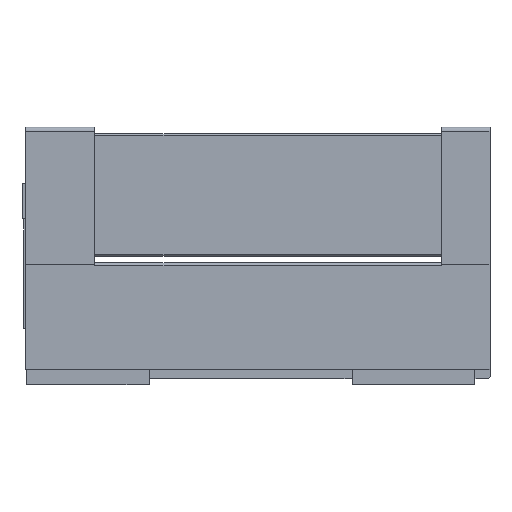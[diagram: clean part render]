
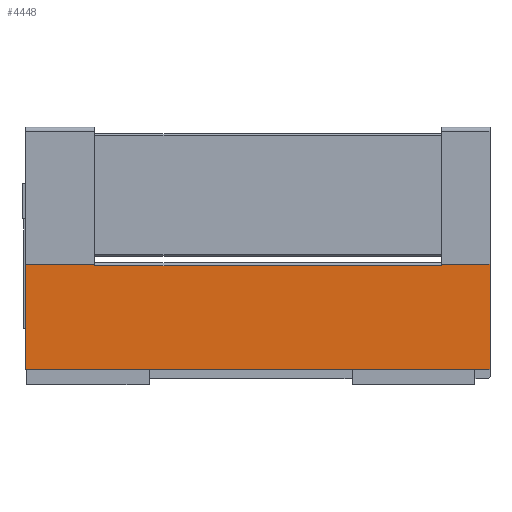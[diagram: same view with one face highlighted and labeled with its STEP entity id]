
A CAD part, left-side view. The second image highlights one B-rep face of the part: STEP entity #4448.
In plain terms, the highlighted planar face has unit normal (-1, 0, 0).
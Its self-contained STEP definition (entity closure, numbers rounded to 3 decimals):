
#35 = FACE_OUTER_BOUND ( 'NONE', #731, .T. ) ;
#147 = VECTOR ( 'NONE', #3398, 1000. ) ;
#148 = LINE ( 'NONE', #3399, #147 ) ;
#241 = VECTOR ( 'NONE', #3293, 1000. ) ;
#242 = LINE ( 'NONE', #3294, #241 ) ;
#471 = VECTOR ( 'NONE', #3589, 1000. ) ;
#476 = LINE ( 'NONE', #3593, #471 ) ;
#617 = ORIENTED_EDGE ( 'NONE', *, *, #4142, .F. ) ;
#618 = ORIENTED_EDGE ( 'NONE', *, *, #4313, .F. ) ;
#619 = ORIENTED_EDGE ( 'NONE', *, *, #3952, .F. ) ;
#620 = ORIENTED_EDGE ( 'NONE', *, *, #3758, .T. ) ;
#621 = ORIENTED_EDGE ( 'NONE', *, *, #4013, .T. ) ;
#622 = ORIENTED_EDGE ( 'NONE', *, *, #4215, .F. ) ;
#623 = ORIENTED_EDGE ( 'NONE', *, *, #4244, .F. ) ;
#624 = ORIENTED_EDGE ( 'NONE', *, *, #4151, .F. ) ;
#731 = EDGE_LOOP ( 'NONE', ( #617, #618, #619, #620, #621, #622, #623, #624 ) ) ;
#1252 = VECTOR ( 'NONE', #1889, 1000. ) ;
#1254 = LINE ( 'NONE', #1888, #1252 ) ;
#1358 = VECTOR ( 'NONE', #2748, 1000. ) ;
#1359 = LINE ( 'NONE', #2749, #1358 ) ;
#1403 = VECTOR ( 'NONE', #2821, 1000. ) ;
#1404 = LINE ( 'NONE', #2823, #1403 ) ;
#1509 = VECTOR ( 'NONE', #2980, 1000. ) ;
#1510 = LINE ( 'NONE', #2981, #1509 ) ;
#1524 = VECTOR ( 'NONE', #3671, 1000. ) ;
#1525 = LINE ( 'NONE', #3672, #1524 ) ;
#1888 = CARTESIAN_POINT ( 'NONE',  ( -4.1, 289.3, -28.503 ) ) ;
#1889 = DIRECTION ( 'NONE',  ( 0., 0., -1. ) ) ;
#2341 = PLANE ( 'NONE',  #4002 ) ;
#2345 = CARTESIAN_POINT ( 'NONE',  ( -4.1, 340., -28.503 ) ) ;
#2351 = DIRECTION ( 'NONE',  ( 1., 0., 0. ) ) ;
#2352 = DIRECTION ( 'NONE',  ( 0., 0., -1. ) ) ;
#2445 = VERTEX_POINT ( 'NONE', #3139 ) ;
#2457 = VERTEX_POINT ( 'NONE', #3221 ) ;
#2459 = VERTEX_POINT ( 'NONE', #3219 ) ;
#2460 = VERTEX_POINT ( 'NONE', #3218 ) ;
#2464 = VERTEX_POINT ( 'NONE', #3214 ) ;
#2468 = VERTEX_POINT ( 'NONE', #3210 ) ;
#2470 = VERTEX_POINT ( 'NONE', #3208 ) ;
#2748 = DIRECTION ( 'NONE',  ( 0., -1., 0. ) ) ;
#2749 = CARTESIAN_POINT ( 'NONE',  ( -4.1, 340., 48.248 ) ) ;
#2821 = DIRECTION ( 'NONE',  ( 0., 0., -1. ) ) ;
#2823 = CARTESIAN_POINT ( 'NONE',  ( -4.1, 0., -28.503 ) ) ;
#2980 = DIRECTION ( 'NONE',  ( 0., 0., 1. ) ) ;
#2981 = CARTESIAN_POINT ( 'NONE',  ( -4.1, 35.3, -28.503 ) ) ;
#3009 = VERTEX_POINT ( 'NONE', #3695 ) ;
#3139 = CARTESIAN_POINT ( 'NONE',  ( -4.1, 0., 48.248 ) ) ;
#3208 = CARTESIAN_POINT ( 'NONE',  ( -4.1, 0., -28.503 ) ) ;
#3210 = CARTESIAN_POINT ( 'NONE',  ( -4.1, 35.3, 47.266 ) ) ;
#3214 = CARTESIAN_POINT ( 'NONE',  ( -4.1, 289.3, 47.266 ) ) ;
#3218 = CARTESIAN_POINT ( 'NONE',  ( -4.1, 35.3, 48.248 ) ) ;
#3219 = CARTESIAN_POINT ( 'NONE',  ( -4.1, 289.3, 48.248 ) ) ;
#3221 = CARTESIAN_POINT ( 'NONE',  ( -4.1, 340., -28.503 ) ) ;
#3293 = DIRECTION ( 'NONE',  ( 0., -1., 0. ) ) ;
#3294 = CARTESIAN_POINT ( 'NONE',  ( -4.1, 340., 48.248 ) ) ;
#3398 = DIRECTION ( 'NONE',  ( 0., -1., 0. ) ) ;
#3399 = CARTESIAN_POINT ( 'NONE',  ( -4.1, 340., -28.503 ) ) ;
#3589 = DIRECTION ( 'NONE',  ( 0., 0., -1. ) ) ;
#3593 = CARTESIAN_POINT ( 'NONE',  ( -4.1, 340., 46.498 ) ) ;
#3671 = DIRECTION ( 'NONE',  ( 0., -1., 0. ) ) ;
#3672 = CARTESIAN_POINT ( 'NONE',  ( -4.1, 445., 47.266 ) ) ;
#3695 = CARTESIAN_POINT ( 'NONE',  ( -4.1, 340., 48.248 ) ) ;
#3758 = EDGE_CURVE ( 'NONE', #3009, #2457, #476, .T. ) ;
#3952 = EDGE_CURVE ( 'NONE', #3009, #2459, #242, .T. ) ;
#4002 = AXIS2_PLACEMENT_3D ( 'NONE', #2345, #2351, #2352 ) ;
#4013 = EDGE_CURVE ( 'NONE', #2457, #2470, #148, .T. ) ;
#4142 = EDGE_CURVE ( 'NONE', #2464, #2468, #1525, .T. ) ;
#4151 = EDGE_CURVE ( 'NONE', #2468, #2460, #1510, .T. ) ;
#4215 = EDGE_CURVE ( 'NONE', #2445, #2470, #1404, .T. ) ;
#4244 = EDGE_CURVE ( 'NONE', #2460, #2445, #1359, .T. ) ;
#4313 = EDGE_CURVE ( 'NONE', #2459, #2464, #1254, .T. ) ;
#4448 = ADVANCED_FACE ( 'NONE', ( #35 ), #2341, .F. ) ;
